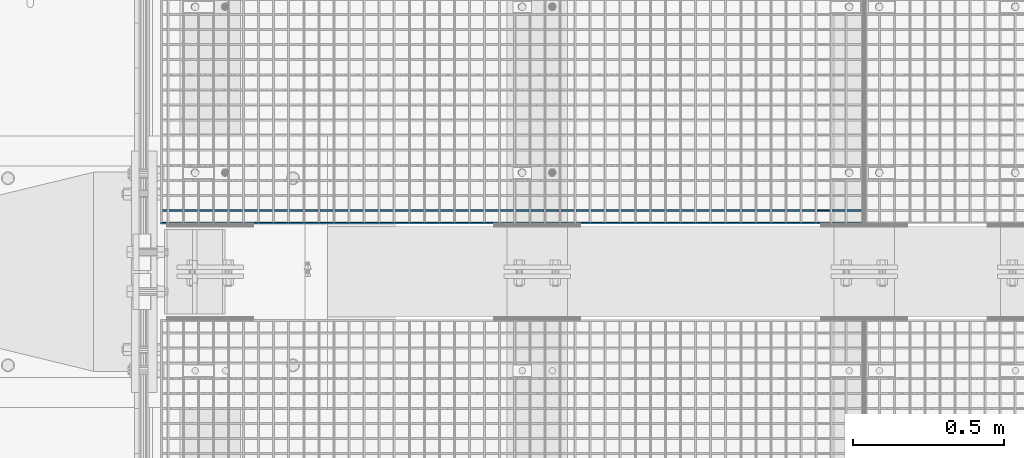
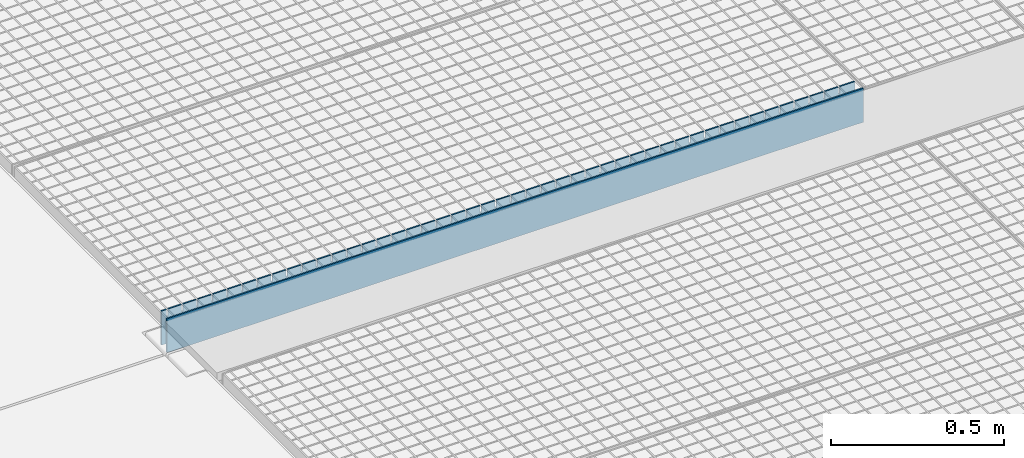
# One storey, part 266 of 1530: 2 beams.
"""IFC2X3 building model written with IfcOpenShell, lengths in millimetres."""

from ifc_helpers import new_model, si_unit, frame, origin_with_axes, place, context, subcontext, project, spatial, faceted_brep, material, type_object, element, save


model = new_model("IFC2X3")

# Units and contexts
model_context = context("Model", 3, precision=1e-05, world=origin_with_axes())
body_context = subcontext(model_context, "Body", "Model", "MODEL_VIEW")
ifc_project = project(units=[si_unit("LENGTHUNIT", "METRE", prefix="MILLI"), si_unit("AREAUNIT", "SQUARE_METRE"), si_unit("VOLUMEUNIT", "CUBIC_METRE"), si_unit("MASSUNIT", "GRAM", prefix="KILO"), si_unit("TIMEUNIT", "SECOND"), si_unit("PLANEANGLEUNIT", "RADIAN"), si_unit("SOLIDANGLEUNIT", "STERADIAN"), si_unit("THERMODYNAMICTEMPERATUREUNIT", "DEGREE_CELSIUS"), si_unit("LUMINOUSINTENSITYUNIT", "LUMEN")], contexts=[model_context])

# Site, building, storey
site_placement = place(None, origin_with_axes())
site = spatial("IfcSite", under=ifc_project, at=site_placement, Name="Brattvåg", CompositionType="ELEMENT")
building_placement = place(site_placement, origin_with_axes())
building = spatial("IfcBuilding", under=site, at=building_placement, Name="Undefined", CompositionType="ELEMENT")
storey_placement = place(building_placement, origin_with_axes())
storey = spatial("IfcBuildingStorey", under=building, at=storey_placement, Name="Undefined", CompositionType="ELEMENT", Elevation=0.0)

# Beams
ifc_material = material(Name="STEEL/S355J2")
beam_type = type_object("IfcBeamType", Name="120*5", PredefinedType="NOTDEFINED")
beam_1_placement = place(storey_placement, frame((2347.01317977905, 3202.99487304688, -59.9998626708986), z_axis=(0.0, 0.0, 1.0), x_axis=(-1.0, 1.99999855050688e-09, 0.0)))
element("IfcBeam", 1, at=beam_1_placement, inside=storey, type_object=beam_type, material=ifc_material, Name="GRATING", context=body_context, shape_type="Brep", body=[
    faceted_brep([(99.4490367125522, -2.50000000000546, 60.0000722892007), (99.4490367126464, -2.50000000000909, 35.0001373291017), (99.4490367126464, 2.50022888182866, 35.0001373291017), (99.4490367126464, 2.5, 60.0), (104.449036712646, -2.50000000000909, 35.0001373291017), (104.449036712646, 2.50022888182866, 35.0001373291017), (104.449036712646, -2.50000000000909, 60.0001373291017), (104.449036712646, 2.5, 60.0), (54.5084370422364, -2.50000000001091, 60.0001373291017), (54.5084370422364, 2.5, 60.0), (54.5084370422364, 2.49999999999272, 35.0001373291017), (54.5084370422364, -2.50000000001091, 35.0001373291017), (49.5084370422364, 2.49999999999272, 35.0001373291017), (49.5084370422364, -2.50000000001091, 35.0001373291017), (49.5084370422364, -2.5, 60.0), (49.5084370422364, 2.5, 60.0), (0.0, 2.5, 60.0), (0.0, -2.5, 60.0), (0.0, -2.5, -60.0), (0.0, 2.5, -60.0), (2319.99865722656, 2.5, -60.0), (2319.99865722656, -2.5, -60.0), (2319.99865722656, -2.5, 60.0), (2319.99865722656, 2.5, 60.0), (2302.24871932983, 2.5, 60.0), (2302.24871932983, -2.50000000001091, 60.0001373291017), (2302.24871932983, 2.49999999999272, 35.0001373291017), (2302.24871932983, -2.50000000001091, 35.0001373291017), (2297.24871932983, 2.49999999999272, 35.0001373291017), (2297.24871932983, -2.50000000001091, 35.0001373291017), (2297.24871932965, -2.50000000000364, 60.0000461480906), (2297.24871932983, 2.5, 60.0), (2252.29859649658, 2.5, 60.0), (2252.29859649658, -2.50000000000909, 60.0001373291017), (2252.29859649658, 2.50022888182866, 35.0001373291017), (2252.29859649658, -2.50000000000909, 35.0001373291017), (2247.29859649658, 2.50022888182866, 35.0001373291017), (2247.29859649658, -2.50000000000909, 35.0001373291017), (2247.29859649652, -2.50000000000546, 60.0000848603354), (2247.29859649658, 2.5, 60.0), (2202.34847366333, 2.5, 60.0), (2202.34847366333, -2.50000000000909, 60.0001373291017), (2202.34847366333, 2.50022888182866, 35.0001373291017), (2202.34847366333, -2.50000000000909, 35.0001373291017), (2197.34847366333, 2.50022888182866, 35.0001373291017), (2197.34847366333, -2.50000000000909, 35.0001373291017), (2197.34847366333, -2.5, 60.0), (2197.34847366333, 2.5, 60.0), (2152.39882766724, 2.5, 60.0), (2152.39882766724, -2.50000000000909, 60.0001373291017), (2152.39882766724, 2.50022888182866, 35.0001373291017), (2152.39882766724, -2.50000000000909, 35.0001373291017), (2147.39882766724, 2.50022888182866, 35.0001373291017), (2147.39882766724, -2.50000000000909, 35.0001373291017), (2147.39882766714, -2.50000000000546, 60.0000722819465), (2147.39882766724, 2.5, 60.0), (2102.44870483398, 2.5, 60.0), (2102.44870483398, -2.50000000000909, 60.0001373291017), (2102.44870483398, 2.50022888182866, 35.0001373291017), (2102.44870483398, -2.50000000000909, 35.0001373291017), (2097.44870483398, 2.50022888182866, 35.0001373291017), (2097.44870483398, -2.50000000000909, 35.0001373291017), (2097.44870483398, -2.5, 60.0), (2097.44870483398, 2.5, 60.0), (2052.49858200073, 2.5, 60.0), (2052.49858200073, -2.50000000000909, 60.0001373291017), (2052.49858200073, 2.50022888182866, 35.0001373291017), (2052.49858200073, -2.50000000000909, 35.0001373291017), (2047.49858200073, 2.50022888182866, 35.0001373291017), (2047.49858200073, -2.50000000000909, 35.0001373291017), (2047.49858200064, -2.50000000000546, 60.0000722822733), (2047.49858200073, 2.5, 60.0), (2002.54845916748, 2.5, 60.0), (2002.54845916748, -2.50000000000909, 60.0001373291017), (2002.54845916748, 2.50022888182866, 35.0001373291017), (2002.54845916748, -2.50000000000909, 35.0001373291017), (1997.54845916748, 2.50022888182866, 35.0001373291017), (1997.54845916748, -2.50000000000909, 35.0001373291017), (1997.54845916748, -2.5, 60.0), (1997.54845916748, 2.5, 60.0), (1952.59881317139, 2.5, 60.0), (1952.59881317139, -2.50000000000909, 60.0001373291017), (1952.59881317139, 2.50022888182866, 35.0001373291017), (1952.59881317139, -2.50000000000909, 35.0001373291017), (1947.59881317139, 2.50022888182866, 35.0001373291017), (1947.59881317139, -2.50000000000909, 35.0001373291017), (1947.59881317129, -2.50000000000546, 60.0000722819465), (1947.59881317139, 2.5, 60.0), (1902.64869033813, 2.5, 60.0), (1902.64869033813, -2.50000000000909, 60.0001373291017), (1902.64869033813, 2.50022888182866, 35.0001373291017), (1902.64869033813, -2.50000000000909, 35.0001373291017), (1897.64869033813, 2.50022888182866, 35.0001373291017), (1897.64869033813, -2.50000000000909, 35.0001373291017), (1897.64869033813, -2.5, 60.0), (1897.64869033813, 2.5, 60.0), (1852.69856750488, 2.5, 60.0), (1852.69856750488, -2.50000000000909, 60.0001373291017), (1852.69856750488, 2.50022888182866, 35.0001373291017), (1852.69856750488, -2.50000000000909, 35.0001373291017), (1847.69856750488, 2.50022888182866, 35.0001373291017), (1847.69856750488, -2.50000000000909, 35.0001373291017), (1847.69856750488, -2.5, 60.0), (1847.69856750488, 2.5, 60.0), (1802.74892150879, 2.5, 60.0), (1802.74892150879, -2.50000000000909, 60.0001373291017), (1802.74892150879, 2.50022888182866, 35.0001373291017), (1802.74892150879, -2.50000000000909, 35.0001373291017), (1797.74892150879, 2.50022888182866, 35.0001373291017), (1797.74892150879, -2.50000000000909, 35.0001373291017), (1797.74892150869, -2.50000000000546, 60.0000722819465), (1797.74892150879, 2.5, 60.0), (1752.79879867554, 2.5, 60.0), (1752.79879867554, -2.50000000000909, 60.0001373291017), (1752.79879867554, 2.50022888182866, 35.0001373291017), (1752.79879867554, -2.50000000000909, 35.0001373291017), (1747.79879867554, 2.50022888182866, 35.0001373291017), (1747.79879867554, -2.50000000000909, 35.0001373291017), (1747.79879867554, -2.5, 60.0), (1747.79879867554, 2.5, 60.0), (1702.84867584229, 2.5, 60.0), (1702.84867584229, -2.50000000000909, 60.0001373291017), (1702.84867584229, 2.50022888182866, 35.0001373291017), (1702.84867584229, -2.50000000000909, 35.0001373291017), (1697.84867584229, 2.50022888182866, 35.0001373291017), (1697.84867584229, -2.50000000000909, 35.0001373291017), (1697.84867584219, -2.50000000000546, 60.0000722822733), (1697.84867584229, 2.5, 60.0), (1652.89855300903, 2.5, 60.0), (1652.89855300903, -2.50000000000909, 60.0001373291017), (1652.89855300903, 2.50022888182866, 35.0001373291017), (1652.89855300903, -2.50000000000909, 35.0001373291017), (1647.89855300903, 2.50022888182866, 35.0001373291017), (1647.89855300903, -2.50000000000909, 35.0001373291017), (1647.89855300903, -2.5, 60.0), (1647.89855300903, 2.5, 60.0), (1602.94890701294, 2.5, 60.0), (1602.94890701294, -2.50000000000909, 60.0001373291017), (1602.94890701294, 2.50022888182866, 35.0001373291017), (1602.94890701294, -2.50000000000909, 35.0001373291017), (1597.94890701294, 2.50022888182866, 35.0001373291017), (1597.94890701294, -2.50000000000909, 35.0001373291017), (1597.94890701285, -2.50000000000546, 60.0000722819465), (1597.94890701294, 2.5, 60.0), (1552.99878417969, 2.5, 60.0), (1552.99878417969, -2.50000000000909, 60.0001373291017), (1552.99878417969, 2.50022888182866, 35.0001373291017), (1552.99878417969, -2.50000000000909, 35.0001373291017), (1547.99878417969, 2.50022888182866, 35.0001373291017), (1547.99878417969, -2.50000000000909, 35.0001373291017), (1547.99878417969, -2.5, 60.0), (1547.99878417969, 2.5, 60.0), (1503.04866134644, 2.5, 60.0), (1503.04866134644, -2.50000000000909, 60.0001373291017), (1503.04866134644, 2.50022888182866, 35.0001373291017), (1503.04866134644, -2.50000000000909, 35.0001373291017), (1498.04866134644, 2.50022888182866, 35.0001373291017), (1498.04866134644, -2.50000000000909, 35.0001373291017), (1498.04866134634, -2.50000000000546, 60.0000722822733), (1498.04866134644, 2.5, 60.0), (1453.09853851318, 2.5, 60.0), (1453.09853851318, -2.50000000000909, 60.0001373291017), (1453.09853851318, 2.50022888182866, 35.0001373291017), (1453.09853851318, -2.50000000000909, 35.0001373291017), (1448.09853851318, 2.50022888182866, 35.0001373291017), (1448.09853851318, -2.50000000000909, 35.0001373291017), (1448.09853851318, -2.5, 60.0), (1448.09853851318, 2.5, 60.0), (1403.14889251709, 2.5, 60.0), (1403.14889251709, -2.50000000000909, 60.0001373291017), (1403.14889251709, 2.50022888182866, 35.0001373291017), (1403.14889251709, -2.50000000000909, 35.0001373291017), (1398.14889251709, 2.50022888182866, 35.0001373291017), (1398.14889251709, -2.50000000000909, 35.0001373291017), (1398.148892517, -2.50000000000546, 60.0000722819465), (1398.14889251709, 2.5, 60.0), (1353.19876968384, 2.5, 60.0), (1353.19876968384, -2.50000000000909, 60.0001373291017), (1353.19876968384, 2.50022888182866, 35.0001373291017), (1353.19876968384, -2.50000000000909, 35.0001373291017), (1348.19876968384, 2.50022888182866, 35.0001373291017), (1348.19876968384, -2.50000000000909, 35.0001373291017), (1348.19876968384, -2.5, 60.0), (1348.19876968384, 2.5, 60.0), (1303.24864685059, 2.5, 60.0), (1303.24864685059, -2.50000000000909, 60.0001373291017), (1303.24864685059, 2.50022888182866, 35.0001373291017), (1303.24864685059, -2.50000000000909, 35.0001373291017), (1298.24864685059, 2.50022888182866, 35.0001373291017), (1298.24864685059, -2.50000000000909, 35.0001373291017), (1298.24864685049, -2.50000000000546, 60.0000722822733), (1298.24864685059, 2.5, 60.0), (1253.29852401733, 2.5, 60.0), (1253.29852401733, -2.50000000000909, 60.0001373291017), (1253.29852401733, 2.50022888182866, 35.0001373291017), (1253.29852401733, -2.50000000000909, 35.0001373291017), (1248.29852401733, 2.50022888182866, 35.0001373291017), (1248.29852401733, -2.50000000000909, 35.0001373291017), (1248.29852401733, -2.5, 60.0), (1248.29852401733, 2.5, 60.0), (1203.34887802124, 2.5, 60.0), (1203.34887802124, -2.50000000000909, 60.0001373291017), (1203.34887802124, 2.50022888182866, 35.0001373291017), (1203.34887802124, -2.50000000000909, 35.0001373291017), (1198.34887802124, 2.50022888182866, 35.0001373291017), (1198.34887802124, -2.50000000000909, 35.0001373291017), (1198.34887802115, -2.50000000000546, 60.0000722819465), (1198.34887802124, 2.5, 60.0), (1153.39875518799, 2.5, 60.0), (1153.39875518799, -2.50000000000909, 60.0001373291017), (1153.39875518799, 2.50022888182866, 35.0001373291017), (1153.39875518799, -2.50000000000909, 35.0001373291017), (1148.39875518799, 2.50022888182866, 35.0001373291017), (1148.39875518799, -2.50000000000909, 35.0001373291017), (1148.39875518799, -2.5, 60.0), (1148.39875518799, 2.5, 60.0), (1103.44863235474, 2.5, 60.0), (1103.44863235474, -2.50000000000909, 60.0001373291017), (1103.44863235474, 2.50022888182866, 35.0001373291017), (1103.44863235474, -2.50000000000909, 35.0001373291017), (1098.44863235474, 2.50022888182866, 35.0001373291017), (1098.44863235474, -2.50000000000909, 35.0001373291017), (1098.44863235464, -2.50000000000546, 60.0000722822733), (1098.44863235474, 2.5, 60.0), (1053.49850952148, 2.5, 60.0), (1053.49850952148, -2.50000000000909, 60.0001373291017), (1053.49850952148, 2.50022888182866, 35.0001373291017), (1053.49850952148, -2.50000000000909, 35.0001373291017), (1048.49850952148, 2.50022888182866, 35.0001373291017), (1048.49850952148, -2.50000000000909, 35.0001373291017), (1048.49850952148, -2.5, 60.0), (1048.49850952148, 2.5, 60.0), (1003.54886352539, 2.5, 60.0), (1003.54886352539, -2.50000000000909, 60.0001373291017), (1003.54886352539, 2.50022888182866, 35.0001373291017), (1003.54886352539, -2.50000000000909, 35.0001373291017), (998.548863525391, 2.50022888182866, 35.0001373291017), (998.548863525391, -2.50000000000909, 35.0001373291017), (998.548863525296, -2.50000000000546, 60.0000722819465), (998.548863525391, 2.5, 60.0), (953.598740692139, 2.5, 60.0), (953.598740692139, -2.50000000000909, 60.0001373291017), (953.598740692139, 2.50022888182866, 35.0001373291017), (953.598740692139, -2.50000000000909, 35.0001373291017), (948.598740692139, 2.50022888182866, 35.0001373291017), (948.598740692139, -2.50000000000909, 35.0001373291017), (948.598740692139, -2.5, 60.0), (948.598740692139, 2.5, 60.0), (903.648617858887, 2.5, 60.0), (903.648617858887, -2.50000000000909, 60.0001373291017), (903.648617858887, 2.50022888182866, 35.0001373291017), (903.648617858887, -2.50000000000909, 35.0001373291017), (898.648617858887, 2.50022888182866, 35.0001373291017), (898.648617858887, -2.50000000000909, 35.0001373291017), (898.648617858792, -2.50000000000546, 60.0000722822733), (898.648617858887, 2.5, 60.0), (853.698495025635, 2.5, 60.0), (853.698495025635, -2.50000000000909, 60.0001373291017), (853.698495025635, 2.50022888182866, 35.0001373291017), (853.698495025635, -2.50000000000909, 35.0001373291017), (848.698495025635, 2.50022888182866, 35.0001373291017), (848.698495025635, -2.50000000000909, 35.0001373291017), (848.698495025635, -2.5, 60.0), (848.698495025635, 2.5, 60.0), (803.748849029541, 2.5, 60.0), (803.748849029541, -2.50000000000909, 60.0001373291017), (803.748849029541, 2.50022888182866, 35.0001373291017), (803.748849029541, -2.50000000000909, 35.0001373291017), (798.748849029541, 2.50022888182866, 35.0001373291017), (798.748849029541, -2.50000000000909, 35.0001373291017), (798.748849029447, -2.50000000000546, 60.0000722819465), (798.748849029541, 2.5, 60.0), (753.798726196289, 2.5, 60.0), (753.798726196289, -2.50000000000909, 60.0001373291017), (753.798726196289, 2.50022888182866, 35.0001373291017), (753.798726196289, -2.50000000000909, 35.0001373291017), (748.798726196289, 2.50022888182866, 35.0001373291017), (748.798726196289, -2.50000000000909, 35.0001373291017), (748.798726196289, -2.5, 60.0), (748.798726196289, 2.5, 60.0), (703.848603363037, 2.5, 60.0), (703.848603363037, -2.50000000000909, 60.0001373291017), (703.848603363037, 2.50022888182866, 35.0001373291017), (703.848603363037, -2.50000000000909, 35.0001373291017), (698.848603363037, 2.50022888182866, 35.0001373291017), (698.848603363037, -2.50000000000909, 35.0001373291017), (698.848603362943, -2.50000000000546, 60.0000722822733), (698.848603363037, 2.5, 60.0), (653.898480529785, 2.5, 60.0), (653.898480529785, -2.50000000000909, 60.0001373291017), (653.898480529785, 2.50022888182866, 35.0001373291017), (653.898480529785, -2.50000000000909, 35.0001373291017), (648.898480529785, 2.50022888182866, 35.0001373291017), (648.898480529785, -2.50000000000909, 35.0001373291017), (648.898480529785, -2.5, 60.0), (648.898480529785, 2.5, 60.0), (603.948834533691, 2.5, 60.0), (603.948834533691, -2.50000000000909, 60.0001373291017), (603.948834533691, 2.50022888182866, 35.0001373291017), (603.948834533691, -2.50000000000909, 35.0001373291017), (598.948834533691, 2.50022888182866, 35.0001373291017), (598.948834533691, -2.50000000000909, 35.0001373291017), (598.948834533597, -2.50000000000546, 60.0000722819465), (598.948834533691, 2.5, 60.0), (553.998711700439, 2.5, 60.0), (553.998711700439, -2.50000000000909, 60.0001373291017), (553.998711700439, 2.50022888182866, 35.0001373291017), (553.998711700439, -2.50000000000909, 35.0001373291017), (548.998711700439, 2.50022888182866, 35.0001373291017), (548.998711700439, -2.50000000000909, 35.0001373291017), (548.998711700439, -2.5, 60.0), (548.998711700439, 2.5, 60.0), (504.048588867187, 2.5, 60.0), (504.048588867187, -2.50000000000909, 60.0001373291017), (504.048588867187, 2.50022888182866, 35.0001373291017), (504.048588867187, -2.50000000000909, 35.0001373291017), (499.048588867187, 2.50022888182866, 35.0001373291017), (499.048588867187, -2.50000000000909, 35.0001373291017), (499.048588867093, -2.50000000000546, 60.0000722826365), (499.048588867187, 2.5, 60.0), (454.098942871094, 2.5, 60.0), (454.098942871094, -2.50000000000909, 60.0001373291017), (454.098942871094, 2.50022888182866, 35.0001373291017), (454.098942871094, -2.50000000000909, 35.0001373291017), (449.098942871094, 2.50022888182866, 35.0001373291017), (449.098942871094, -2.50000000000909, 35.0001373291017), (449.098942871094, -2.5, 60.0), (449.098942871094, 2.5, 60.0), (404.148820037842, 2.5, 60.0), (404.148820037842, -2.50000000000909, 60.0001373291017), (404.148820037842, 2.50022888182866, 35.0001373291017), (404.148820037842, -2.50000000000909, 35.0001373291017), (399.148820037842, 2.50022888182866, 35.0001373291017), (399.148820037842, -2.50000000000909, 35.0001373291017), (399.148820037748, -2.50000000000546, 60.0000722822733), (399.148820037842, 2.5, 60.0), (354.19869720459, 2.5, 60.0), (354.19869720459, -2.50000000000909, 60.0001373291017), (354.19869720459, 2.50022888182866, 35.0001373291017), (354.19869720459, -2.50000000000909, 35.0001373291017), (349.19869720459, 2.50022888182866, 35.0001373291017), (349.19869720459, -2.50000000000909, 35.0001373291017), (349.19869720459, -2.5, 60.0), (349.19869720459, 2.5, 60.0), (304.248574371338, 2.5, 60.0), (304.248574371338, -2.50000000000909, 60.0001373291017), (304.248574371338, 2.50022888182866, 35.0001373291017), (304.248574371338, -2.50000000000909, 35.0001373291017), (299.248574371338, 2.50022888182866, 35.0001373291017), (299.248574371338, -2.50000000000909, 35.0001373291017), (299.248574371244, -2.50000000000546, 60.0000722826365), (299.248574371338, 2.5, 60.0), (254.298928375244, 2.5, 60.0), (254.298928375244, -2.50000000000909, 60.0001373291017), (254.298928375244, 2.50022888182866, 35.0001373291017), (254.298928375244, -2.50000000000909, 35.0001373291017), (249.298928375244, 2.50022888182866, 35.0001373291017), (249.298928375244, -2.50000000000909, 35.0001373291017), (249.298928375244, -2.5, 60.0), (249.298928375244, 2.5, 60.0), (204.348328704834, 2.5, 60.0), (204.348328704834, -2.50000000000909, 60.0001373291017), (204.348328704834, 2.50022888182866, 35.0001373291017), (204.348328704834, -2.50000000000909, 35.0001373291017), (199.348328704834, 2.50022888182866, 35.0001373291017), (199.348328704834, -2.50000000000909, 35.0001373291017), (199.34832870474, -2.50000000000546, 60.0000722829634), (199.348328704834, 2.5, 60.0), (154.39868270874, 2.5, 60.0), (154.39868270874, -2.50000000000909, 60.0001373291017), (154.39868270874, 2.50022888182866, 35.0001373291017), (154.39868270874, -2.50000000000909, 35.0001373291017), (149.39868270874, 2.50022888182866, 35.0001373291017), (149.39868270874, -2.50000000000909, 35.0001373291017), (149.39868270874, -2.5, 60.0), (149.39868270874, 2.5, 60.0)], [[[0, 1, 2, 3]], [[4, 5, 2, 1]], [[6, 7, 5, 4]], [[8, 9, 10, 11]], [[11, 10, 12, 13]], [[14, 13, 12, 15]], [[16, 17, 14, 15]], [[18, 17, 16, 19]], [[18, 19, 20, 21]], [[22, 21, 20, 23]], [[22, 23, 24, 25]], [[25, 24, 26, 27]], [[27, 26, 28, 29]], [[30, 29, 28, 31]], [[32, 33, 30, 31]], [[33, 32, 34, 35]], [[35, 34, 36, 37]], [[38, 37, 36, 39]], [[40, 41, 38, 39]], [[41, 40, 42, 43]], [[43, 42, 44, 45]], [[46, 45, 44, 47]], [[46, 47, 48, 49]], [[49, 48, 50, 51]], [[51, 50, 52, 53]], [[54, 53, 52, 55]], [[56, 57, 54, 55]], [[57, 56, 58, 59]], [[59, 58, 60, 61]], [[62, 61, 60, 63]], [[62, 63, 64, 65]], [[65, 64, 66, 67]], [[67, 66, 68, 69]], [[70, 69, 68, 71]], [[72, 73, 70, 71]], [[73, 72, 74, 75]], [[75, 74, 76, 77]], [[78, 77, 76, 79]], [[78, 79, 80, 81]], [[81, 80, 82, 83]], [[83, 82, 84, 85]], [[86, 85, 84, 87]], [[88, 89, 86, 87]], [[89, 88, 90, 91]], [[91, 90, 92, 93]], [[94, 93, 92, 95]], [[94, 95, 96, 97]], [[97, 96, 98, 99]], [[99, 98, 100, 101]], [[102, 101, 100, 103]], [[102, 103, 104, 105]], [[105, 104, 106, 107]], [[107, 106, 108, 109]], [[110, 109, 108, 111]], [[112, 113, 110, 111]], [[113, 112, 114, 115]], [[115, 114, 116, 117]], [[118, 117, 116, 119]], [[118, 119, 120, 121]], [[121, 120, 122, 123]], [[123, 122, 124, 125]], [[126, 125, 124, 127]], [[128, 129, 126, 127]], [[129, 128, 130, 131]], [[131, 130, 132, 133]], [[134, 133, 132, 135]], [[134, 135, 136, 137]], [[137, 136, 138, 139]], [[139, 138, 140, 141]], [[142, 141, 140, 143]], [[144, 145, 142, 143]], [[145, 144, 146, 147]], [[147, 146, 148, 149]], [[150, 149, 148, 151]], [[150, 151, 152, 153]], [[153, 152, 154, 155]], [[155, 154, 156, 157]], [[158, 157, 156, 159]], [[160, 161, 158, 159]], [[161, 160, 162, 163]], [[163, 162, 164, 165]], [[166, 165, 164, 167]], [[166, 167, 168, 169]], [[169, 168, 170, 171]], [[171, 170, 172, 173]], [[174, 173, 172, 175]], [[176, 177, 174, 175]], [[177, 176, 178, 179]], [[179, 178, 180, 181]], [[182, 181, 180, 183]], [[182, 183, 184, 185]], [[185, 184, 186, 187]], [[187, 186, 188, 189]], [[190, 189, 188, 191]], [[192, 193, 190, 191]], [[193, 192, 194, 195]], [[195, 194, 196, 197]], [[198, 197, 196, 199]], [[198, 199, 200, 201]], [[201, 200, 202, 203]], [[203, 202, 204, 205]], [[206, 205, 204, 207]], [[208, 209, 206, 207]], [[209, 208, 210, 211]], [[211, 210, 212, 213]], [[214, 213, 212, 215]], [[214, 215, 216, 217]], [[217, 216, 218, 219]], [[219, 218, 220, 221]], [[222, 221, 220, 223]], [[224, 225, 222, 223]], [[225, 224, 226, 227]], [[227, 226, 228, 229]], [[230, 229, 228, 231]], [[230, 231, 232, 233]], [[233, 232, 234, 235]], [[235, 234, 236, 237]], [[238, 237, 236, 239]], [[240, 241, 238, 239]], [[241, 240, 242, 243]], [[243, 242, 244, 245]], [[246, 245, 244, 247]], [[246, 247, 248, 249]], [[249, 248, 250, 251]], [[251, 250, 252, 253]], [[254, 253, 252, 255]], [[256, 257, 254, 255]], [[257, 256, 258, 259]], [[259, 258, 260, 261]], [[262, 261, 260, 263]], [[262, 263, 264, 265]], [[265, 264, 266, 267]], [[267, 266, 268, 269]], [[270, 269, 268, 271]], [[272, 273, 270, 271]], [[273, 272, 274, 275]], [[275, 274, 276, 277]], [[278, 277, 276, 279]], [[278, 279, 280, 281]], [[281, 280, 282, 283]], [[283, 282, 284, 285]], [[286, 285, 284, 287]], [[288, 289, 286, 287]], [[289, 288, 290, 291]], [[291, 290, 292, 293]], [[294, 293, 292, 295]], [[294, 295, 296, 297]], [[297, 296, 298, 299]], [[299, 298, 300, 301]], [[302, 301, 300, 303]], [[304, 305, 302, 303]], [[305, 304, 306, 307]], [[307, 306, 308, 309]], [[310, 309, 308, 311]], [[310, 311, 312, 313]], [[313, 312, 314, 315]], [[315, 314, 316, 317]], [[318, 317, 316, 319]], [[320, 321, 318, 319]], [[321, 320, 322, 323]], [[323, 322, 324, 325]], [[326, 325, 324, 327]], [[326, 327, 328, 329]], [[329, 328, 330, 331]], [[331, 330, 332, 333]], [[334, 333, 332, 335]], [[336, 337, 334, 335]], [[337, 336, 338, 339]], [[339, 338, 340, 341]], [[342, 341, 340, 343]], [[342, 343, 344, 345]], [[345, 344, 346, 347]], [[347, 346, 348, 349]], [[350, 349, 348, 351]], [[352, 353, 350, 351]], [[353, 352, 354, 355]], [[355, 354, 356, 357]], [[358, 357, 356, 359]], [[358, 359, 360, 361]], [[361, 360, 362, 363]], [[363, 362, 364, 365]], [[366, 365, 364, 367]], [[368, 369, 366, 367]], [[369, 368, 370, 371]], [[371, 370, 372, 373]], [[374, 373, 372, 375]], [[1, 0, 8, 11, 13, 14, 17, 18, 21, 22, 25, 27, 29, 30, 33, 35, 37, 38, 41, 43, 45, 46, 49, 51, 53, 54, 57, 59, 61, 62, 65, 67, 69, 70, 73, 75, 77, 78, 81, 83, 85, 86, 89, 91, 93, 94, 97, 99, 101, 102, 105, 107, 109, 110, 113, 115, 117, 118, 121, 123, 125, 126, 129, 131, 133, 134, 137, 139, 141, 142, 145, 147, 149, 150, 153, 155, 157, 158, 161, 163, 165, 166, 169, 171, 173, 174, 177, 179, 181, 182, 185, 187, 189, 190, 193, 195, 197, 198, 201, 203, 205, 206, 209, 211, 213, 214, 217, 219, 221, 222, 225, 227, 229, 230, 233, 235, 237, 238, 241, 243, 245, 246, 249, 251, 253, 254, 257, 259, 261, 262, 265, 267, 269, 270, 273, 275, 277, 278, 281, 283, 285, 286, 289, 291, 293, 294, 297, 299, 301, 302, 305, 307, 309, 310, 313, 315, 317, 318, 321, 323, 325, 326, 329, 331, 333, 334, 337, 339, 341, 342, 345, 347, 349, 350, 353, 355, 357, 358, 361, 363, 365, 366, 369, 371, 373, 374, 6, 4]], [[9, 8, 0, 3]], [[375, 372, 370, 368, 367, 364, 362, 360, 359, 356, 354, 352, 351, 348, 346, 344, 343, 340, 338, 336, 335, 332, 330, 328, 327, 324, 322, 320, 319, 316, 314, 312, 311, 308, 306, 304, 303, 300, 298, 296, 295, 292, 290, 288, 287, 284, 282, 280, 279, 276, 274, 272, 271, 268, 266, 264, 263, 260, 258, 256, 255, 252, 250, 248, 247, 244, 242, 240, 239, 236, 234, 232, 231, 228, 226, 224, 223, 220, 218, 216, 215, 212, 210, 208, 207, 204, 202, 200, 199, 196, 194, 192, 191, 188, 186, 184, 183, 180, 178, 176, 175, 172, 170, 168, 167, 164, 162, 160, 159, 156, 154, 152, 151, 148, 146, 144, 143, 140, 138, 136, 135, 132, 130, 128, 127, 124, 122, 120, 119, 116, 114, 112, 111, 108, 106, 104, 103, 100, 98, 96, 95, 92, 90, 88, 87, 84, 82, 80, 79, 76, 74, 72, 71, 68, 66, 64, 63, 60, 58, 56, 55, 52, 50, 48, 47, 44, 42, 40, 39, 36, 34, 32, 31, 28, 26, 24, 23, 20, 19, 16, 15, 12, 10, 9, 3, 2, 5, 7]], [[374, 375, 7, 6]]]),
])
beam_2_placement = place(storey_placement, frame((22.010671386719, 3161.49868774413, -59.9998626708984), z_axis=(0.0, 0.0, 1.0), x_axis=(1.0, 0.0, 0.0)))
element("IfcBeam", 2, at=beam_2_placement, inside=storey, type_object=beam_type, material=ifc_material, Name="GRATING", context=body_context, shape_type="Brep", body=[
    faceted_brep([(0.0, 2.5, -60.0), (0.0, 2.5, 60.0), (2329.99832153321, 2.5, 60.0), (2329.99832153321, 2.5, -60.0), (0.0, -2.5, 60.0), (2329.99832153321, -2.5, 60.0), (0.0, -2.5, -60.0), (2329.99832153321, -2.5, -60.0)], [[[0, 1, 2, 3]], [[1, 4, 5, 2]], [[4, 6, 7, 5]], [[6, 0, 3, 7]], [[5, 7, 3, 2]], [[6, 4, 1, 0]]]),
])

save(model, "model.ifc")
